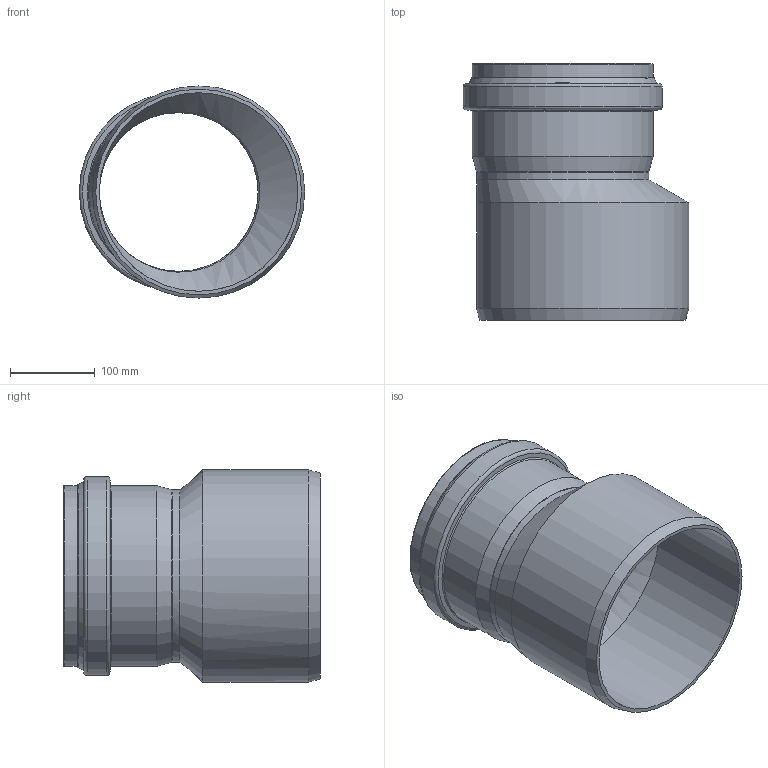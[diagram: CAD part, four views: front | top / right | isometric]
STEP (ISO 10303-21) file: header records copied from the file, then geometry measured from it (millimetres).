
FILE_DESCRIPTION(/* description */ (''),/* implementation_level */ '2;1');
FILE_NAME(/* name */ '775670z.stp',/* time_stamp */ '2026-01-15T12:43:33+01:00',/* author */ ('corinna'),/* organization */ (''),/* preprocessor_version */ 'ST-DEVELOPER v20',/* originating_system */ 'Autodesk Inventor 2024',/* authorisation */ '');
FILE_SCHEMA (('AUTOMOTIVE_DESIGN { 1 0 10303 214 3 1 1 }'));
Length unit declared in the file: millimetre
Products named in the file (1): 775670z
Bounding box: 265.95 x 303 x 250.3 mm (x, y, z)
Volume: 1644435.9 mm3; surface area: 471723.7 mm2
Topology: 1 solids, 1 shells, 43 faces, 119 edges, 77 vertices
Faces by surface type: torus 15, cylinder 11, cone 11, bspline 3, plane 3
Full cylindrical faces by diameter (mm): 187.3 x1, 201.5 x1, 201.8 x2, 203.3 x1, 213.1 x1, 213.4 x1, 223 x1, 234.3 x1, 234.6 x1, 250.3 x1
Entity records: 1815 total; most frequent: CARTESIAN_POINT 613, DIRECTION 282, ORIENTED_EDGE 234, AXIS2_PLACEMENT_3D 130, EDGE_CURVE 117, CIRCLE 89, VERTEX_POINT 77, EDGE_LOOP 46
